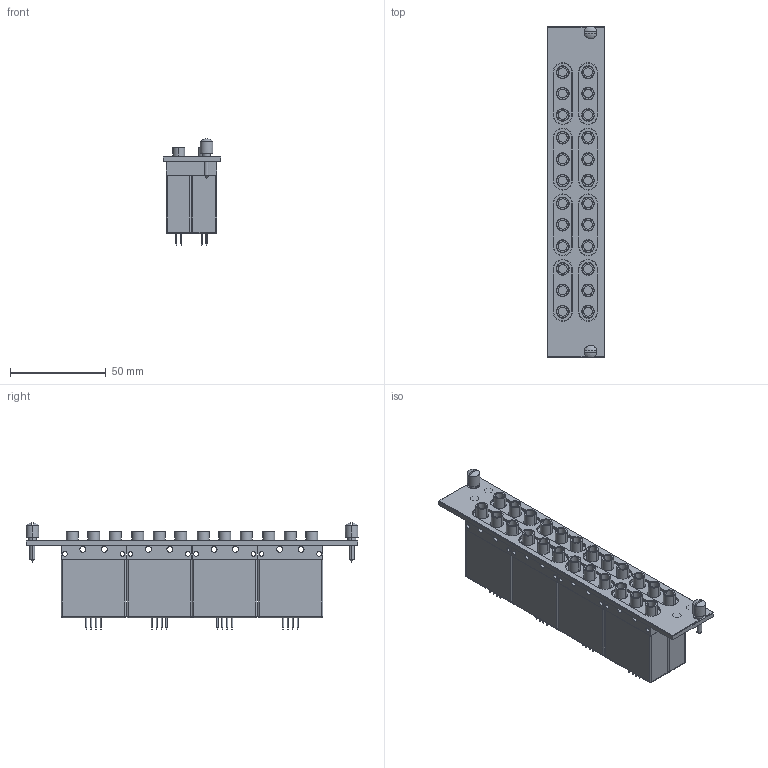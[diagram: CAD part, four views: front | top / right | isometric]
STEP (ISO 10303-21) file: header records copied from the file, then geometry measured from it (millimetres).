
FILE_DESCRIPTION((''),'2;1');
FILE_NAME('CU_SCXI-1192','2011-08-15T',('jjorden'),(''),'PRO/ENGINEER BY PARAMETRIC TECHNOLOGY CORPORATION, 2010230','PRO/ENGINEER BY PARAMETRIC TECHNOLOGY CORPORATION, 2010230','');
FILE_SCHEMA(('CONFIG_CONTROL_DESIGN'));
Length unit declared in the file: inch
Products named in the file (1): CU_SCXI-1192
Bounding box: 30.18 x 173.48 x 55.56 mm (x, y, z)
Volume: 146557.8 mm3; surface area: 48823.3 mm2
Topology: 1 solids, 1 shells, 969 faces, 2100 edges, 1322 vertices
Faces by surface type: cylinder 482, plane 319, cone 132, sphere 36
Entity records: 26670 total; most frequent: DIRECTION 5138, CARTESIAN_POINT 4387, ORIENTED_EDGE 4192, EDGE_CURVE 2096, AXIS2_PLACEMENT_3D 2073, VERTEX_POINT 1322, EDGE_LOOP 1194, CIRCLE 1104
